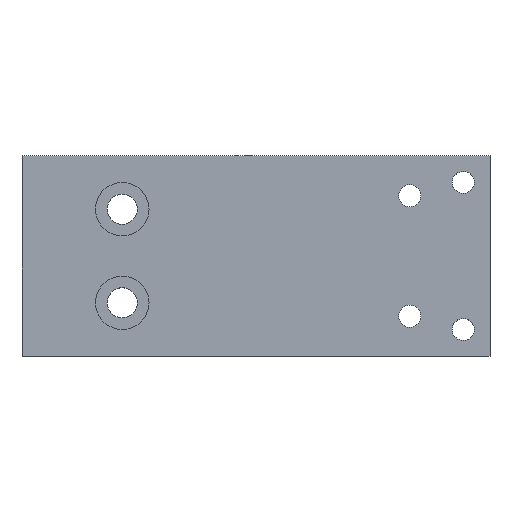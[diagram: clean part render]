
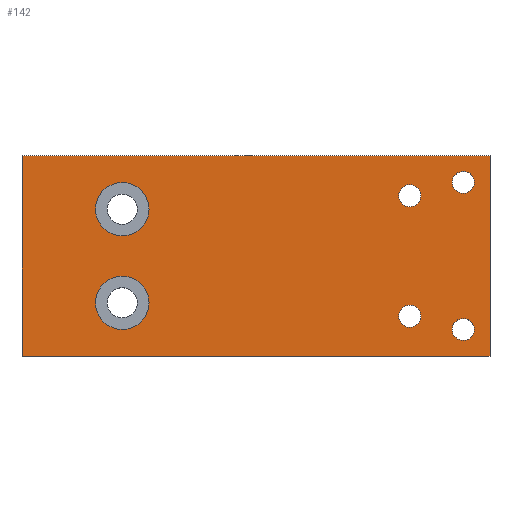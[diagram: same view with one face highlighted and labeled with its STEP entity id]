
A CAD part, top view. The second image highlights one B-rep face of the part: STEP entity #142.
In plain terms, the highlighted planar face has unit normal (0, 0, 1).
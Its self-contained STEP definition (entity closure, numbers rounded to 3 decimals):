
#6 = EDGE_LOOP ( 'NONE', ( #254 ) ) ;
#7 = EDGE_CURVE ( 'NONE', #446, #318, #312, .T. ) ;
#8 = ORIENTED_EDGE ( 'NONE', *, *, #83, .F. ) ;
#11 = ORIENTED_EDGE ( 'NONE', *, *, #358, .T. ) ;
#12 = VERTEX_POINT ( 'NONE', #59 ) ;
#17 = CIRCLE ( 'NONE', #219, 1.65 ) ;
#20 = CARTESIAN_POINT ( 'NONE',  ( 31., -11., 6. ) ) ;
#22 = CARTESIAN_POINT ( 'NONE',  ( -35., -15., 6. ) ) ;
#27 = EDGE_LOOP ( 'NONE', ( #11, #171, #305, #442 ) ) ;
#29 = VERTEX_POINT ( 'NONE', #351 ) ;
#30 = AXIS2_PLACEMENT_3D ( 'NONE', #271, #377, #415 ) ;
#34 = FACE_BOUND ( 'NONE', #114, .T. ) ;
#36 = DIRECTION ( 'NONE',  ( 1., 0., 0. ) ) ;
#44 = AXIS2_PLACEMENT_3D ( 'NONE', #234, #226, #102 ) ;
#49 = LINE ( 'NONE', #458, #88 ) ;
#51 = AXIS2_PLACEMENT_3D ( 'NONE', #423, #57, #240 ) ;
#54 = CARTESIAN_POINT ( 'NONE',  ( 32.65, 11., 6. ) ) ;
#56 = DIRECTION ( 'NONE',  ( 1., 0., 0. ) ) ;
#57 = DIRECTION ( 'NONE',  ( 0., 0., 1. ) ) ;
#59 = CARTESIAN_POINT ( 'NONE',  ( 35., 15., 6. ) ) ;
#65 = VERTEX_POINT ( 'NONE', #190 ) ;
#69 = FACE_OUTER_BOUND ( 'NONE', #27, .T. ) ;
#83 = EDGE_CURVE ( 'NONE', #65, #65, #229, .T. ) ;
#88 = VECTOR ( 'NONE', #99, 1000. ) ;
#91 = CARTESIAN_POINT ( 'NONE',  ( 23., 9., 6. ) ) ;
#98 = AXIS2_PLACEMENT_3D ( 'NONE', #299, #383, #56 ) ;
#99 = DIRECTION ( 'NONE',  ( 0., -1., 0. ) ) ;
#102 = DIRECTION ( 'NONE',  ( 1., 0., 0. ) ) ;
#107 = PLANE ( 'NONE',  #174 ) ;
#112 = VECTOR ( 'NONE', #386, 1000. ) ;
#114 = EDGE_LOOP ( 'NONE', ( #8 ) ) ;
#116 = ORIENTED_EDGE ( 'NONE', *, *, #252, .F. ) ;
#117 = EDGE_LOOP ( 'NONE', ( #185 ) ) ;
#132 = CIRCLE ( 'NONE', #44, 4. ) ;
#136 = CARTESIAN_POINT ( 'NONE',  ( -35., -15., 6. ) ) ;
#137 = CARTESIAN_POINT ( 'NONE',  ( -16., 7., 6. ) ) ;
#142 = ADVANCED_FACE ( 'NONE', ( #206, #34, #227, #342, #430, #281, #69 ), #107, .T. ) ;
#159 = VERTEX_POINT ( 'NONE', #137 ) ;
#160 = DIRECTION ( 'NONE',  ( 0., 0., 1. ) ) ;
#171 = ORIENTED_EDGE ( 'NONE', *, *, #7, .T. ) ;
#174 = AXIS2_PLACEMENT_3D ( 'NONE', #22, #160, #304 ) ;
#185 = ORIENTED_EDGE ( 'NONE', *, *, #303, .F. ) ;
#189 = CARTESIAN_POINT ( 'NONE',  ( 35., 15., 6. ) ) ;
#190 = CARTESIAN_POINT ( 'NONE',  ( -16., -7., 6. ) ) ;
#200 = DIRECTION ( 'NONE',  ( 0., 0., 1. ) ) ;
#206 = FACE_BOUND ( 'NONE', #361, .T. ) ;
#207 = ORIENTED_EDGE ( 'NONE', *, *, #398, .F. ) ;
#209 = EDGE_CURVE ( 'NONE', #425, #425, #444, .T. ) ;
#219 = AXIS2_PLACEMENT_3D ( 'NONE', #91, #200, #311 ) ;
#225 = EDGE_LOOP ( 'NONE', ( #355 ) ) ;
#226 = DIRECTION ( 'NONE',  ( 0., 0., 1. ) ) ;
#227 = FACE_BOUND ( 'NONE', #225, .T. ) ;
#229 = CIRCLE ( 'NONE', #51, 4. ) ;
#231 = VERTEX_POINT ( 'NONE', #413 ) ;
#234 = CARTESIAN_POINT ( 'NONE',  ( -20., 7., 6. ) ) ;
#240 = DIRECTION ( 'NONE',  ( 1., 0., 0. ) ) ;
#252 = EDGE_CURVE ( 'NONE', #159, #159, #132, .T. ) ;
#254 = ORIENTED_EDGE ( 'NONE', *, *, #257, .F. ) ;
#257 = EDGE_CURVE ( 'NONE', #231, #231, #17, .T. ) ;
#258 = CARTESIAN_POINT ( 'NONE',  ( 35., -15., 6. ) ) ;
#261 = CARTESIAN_POINT ( 'NONE',  ( -35., 15., 6. ) ) ;
#264 = EDGE_CURVE ( 'NONE', #12, #339, #306, .T. ) ;
#266 = CARTESIAN_POINT ( 'NONE',  ( -35., 15., 6. ) ) ;
#271 = CARTESIAN_POINT ( 'NONE',  ( 23., -9., 6. ) ) ;
#281 = FACE_BOUND ( 'NONE', #6, .T. ) ;
#299 = CARTESIAN_POINT ( 'NONE',  ( 31., 11., 6. ) ) ;
#301 = DIRECTION ( 'NONE',  ( 1., 0., 0. ) ) ;
#303 = EDGE_CURVE ( 'NONE', #29, #29, #439, .T. ) ;
#304 = DIRECTION ( 'NONE',  ( 1., 0., 0. ) ) ;
#305 = ORIENTED_EDGE ( 'NONE', *, *, #376, .T. ) ;
#306 = LINE ( 'NONE', #261, #112 ) ;
#311 = DIRECTION ( 'NONE',  ( 1., 0., 0. ) ) ;
#312 = LINE ( 'NONE', #136, #422 ) ;
#317 = CARTESIAN_POINT ( 'NONE',  ( -35., -15., 6. ) ) ;
#318 = VERTEX_POINT ( 'NONE', #258 ) ;
#324 = VECTOR ( 'NONE', #340, 1000. ) ;
#339 = VERTEX_POINT ( 'NONE', #266 ) ;
#340 = DIRECTION ( 'NONE',  ( 0., 1., 0. ) ) ;
#342 = FACE_BOUND ( 'NONE', #470, .T. ) ;
#348 = CIRCLE ( 'NONE', #463, 1.65 ) ;
#351 = CARTESIAN_POINT ( 'NONE',  ( 24.65, -9., 6. ) ) ;
#355 = ORIENTED_EDGE ( 'NONE', *, *, #209, .F. ) ;
#358 = EDGE_CURVE ( 'NONE', #339, #446, #49, .T. ) ;
#361 = EDGE_LOOP ( 'NONE', ( #116 ) ) ;
#376 = EDGE_CURVE ( 'NONE', #318, #12, #450, .T. ) ;
#377 = DIRECTION ( 'NONE',  ( 0., 0., 1. ) ) ;
#383 = DIRECTION ( 'NONE',  ( 0., 0., 1. ) ) ;
#384 = DIRECTION ( 'NONE',  ( 0., 0., 1. ) ) ;
#386 = DIRECTION ( 'NONE',  ( -1., 0., 0. ) ) ;
#388 = VERTEX_POINT ( 'NONE', #455 ) ;
#398 = EDGE_CURVE ( 'NONE', #388, #388, #348, .T. ) ;
#413 = CARTESIAN_POINT ( 'NONE',  ( 24.65, 9., 6. ) ) ;
#415 = DIRECTION ( 'NONE',  ( 1., 0., 0. ) ) ;
#422 = VECTOR ( 'NONE', #36, 1000. ) ;
#423 = CARTESIAN_POINT ( 'NONE',  ( -20., -7., 6. ) ) ;
#425 = VERTEX_POINT ( 'NONE', #54 ) ;
#430 = FACE_BOUND ( 'NONE', #117, .T. ) ;
#439 = CIRCLE ( 'NONE', #30, 1.65 ) ;
#442 = ORIENTED_EDGE ( 'NONE', *, *, #264, .T. ) ;
#444 = CIRCLE ( 'NONE', #98, 1.65 ) ;
#446 = VERTEX_POINT ( 'NONE', #317 ) ;
#450 = LINE ( 'NONE', #189, #324 ) ;
#455 = CARTESIAN_POINT ( 'NONE',  ( 32.65, -11., 6. ) ) ;
#458 = CARTESIAN_POINT ( 'NONE',  ( -35., 15., 6. ) ) ;
#463 = AXIS2_PLACEMENT_3D ( 'NONE', #20, #384, #301 ) ;
#470 = EDGE_LOOP ( 'NONE', ( #207 ) ) ;
